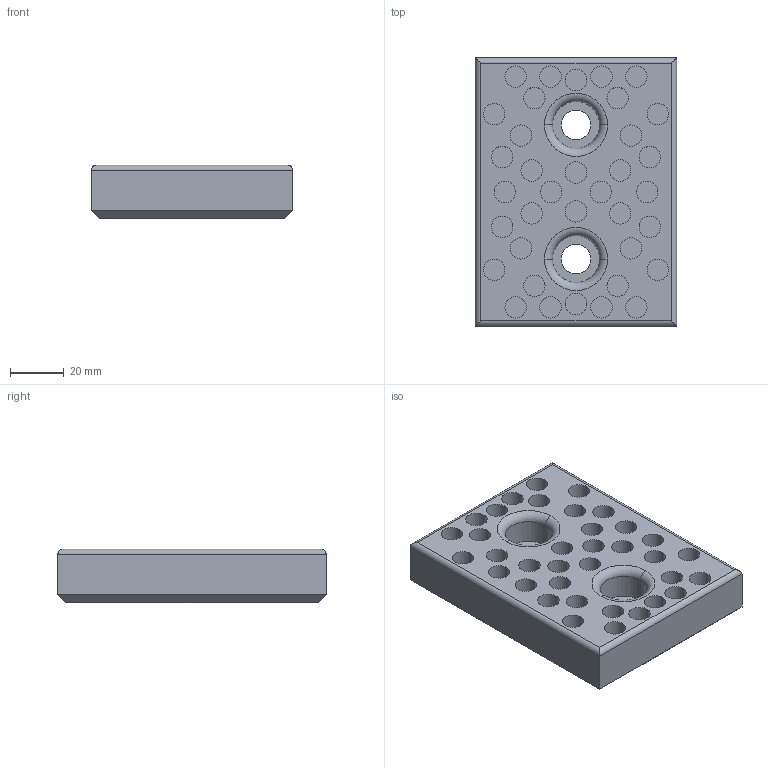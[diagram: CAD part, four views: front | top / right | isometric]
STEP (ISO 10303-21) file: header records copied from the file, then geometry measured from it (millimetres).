
FILE_DESCRIPTION (( 'STEP AP214' ), '1' );
FILE_NAME ('SW224-02-75x100.STEP', '2020-10-19T07:49:37', ( 'August' ), ( '' ), 'SwSTEP 2.0', 'SolidWorks 2018', '' );
FILE_SCHEMA (( 'AUTOMOTIVE_DESIGN' ));
Length unit declared in the file: millimetre
Products named in the file (1): SW224-02-75x100
Bounding box: 75 x 100 x 20 mm (x, y, z)
Volume: 128337.1 mm3; surface area: 28578.5 mm2
Topology: 1 solids, 1 shells, 136 faces, 276 edges, 180 vertices
Faces by surface type: cylinder 84, plane 48, torus 4
Entity records: 4150 total; most frequent: CARTESIAN_POINT 777, DIRECTION 710, ORIENTED_EDGE 552, AXIS2_PLACEMENT_3D 305, EDGE_CURVE 276, VERTEX_POINT 180, EDGE_LOOP 178, CIRCLE 168
